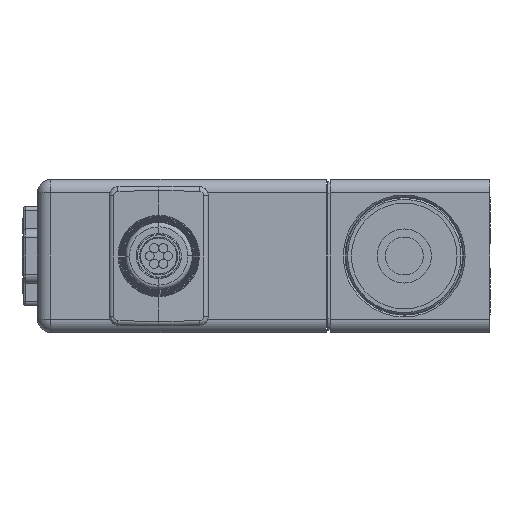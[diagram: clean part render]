
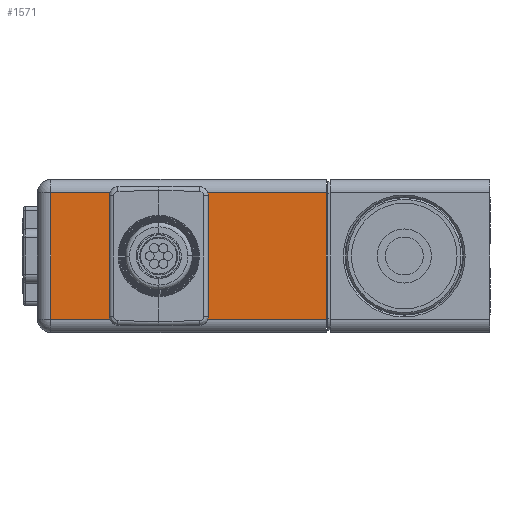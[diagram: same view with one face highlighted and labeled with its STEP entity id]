
A CAD part, left-side view. The second image highlights one B-rep face of the part: STEP entity #1571.
In plain terms, the highlighted planar face has unit normal (-1, 0, 0).
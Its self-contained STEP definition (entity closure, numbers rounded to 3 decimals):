
#1571=ADVANCED_FACE('',(#3872,#3873),#3874,.T.);
#3872=FACE_BOUND('',#7018,.T.);
#3873=FACE_OUTER_BOUND('',#7019,.T.);
#3874=PLANE('',#7020);
#7018=EDGE_LOOP('',(#13553,#13554,#13555,#13556,#13557,#13558,#13559,#13560,#13561,#13562,#13563,#13564,#13565,#13566));
#7019=EDGE_LOOP('',(#13567,#13568,#13569,#13570));
#7020=AXIS2_PLACEMENT_3D('',#13571,#13572,#13573);
#13553=ORIENTED_EDGE('',*,*,#22046,.F.);
#13554=ORIENTED_EDGE('',*,*,#22047,.F.);
#13555=ORIENTED_EDGE('',*,*,#20859,.T.);
#13556=ORIENTED_EDGE('',*,*,#22048,.F.);
#13557=ORIENTED_EDGE('',*,*,#21525,.T.);
#13558=ORIENTED_EDGE('',*,*,#22049,.F.);
#13559=ORIENTED_EDGE('',*,*,#21726,.F.);
#13560=ORIENTED_EDGE('',*,*,#22050,.T.);
#13561=ORIENTED_EDGE('',*,*,#21624,.F.);
#13562=ORIENTED_EDGE('',*,*,#22051,.F.);
#13563=ORIENTED_EDGE('',*,*,#21491,.T.);
#13564=ORIENTED_EDGE('',*,*,#22052,.F.);
#13565=ORIENTED_EDGE('',*,*,#22053,.T.);
#13566=ORIENTED_EDGE('',*,*,#21089,.F.);
#13567=ORIENTED_EDGE('',*,*,#21852,.F.);
#13568=ORIENTED_EDGE('',*,*,#21324,.T.);
#13569=ORIENTED_EDGE('',*,*,#22054,.T.);
#13570=ORIENTED_EDGE('',*,*,#22055,.F.);
#13571=CARTESIAN_POINT('',(-27.5,18.15,-8.5));
#13572=DIRECTION('',(-1.0,0.0,0.0));
#13573=DIRECTION('',(0.0,0.0,1.0));
#20859=EDGE_CURVE('',#25330,#25331,#25332,.T.);
#21089=EDGE_CURVE('',#25743,#25745,#25746,.T.);
#21324=EDGE_CURVE('',#25315,#26148,#26149,.T.);
#21491=EDGE_CURVE('',#26420,#26421,#26422,.T.);
#21525=EDGE_CURVE('',#26474,#26475,#26476,.T.);
#21624=EDGE_CURVE('',#26645,#26647,#26648,.T.);
#21726=EDGE_CURVE('',#26798,#26801,#26802,.T.);
#21852=EDGE_CURVE('',#25315,#26338,#26991,.T.);
#22046=EDGE_CURVE('',#27282,#25743,#27283,.T.);
#22047=EDGE_CURVE('',#25330,#27282,#27284,.T.);
#22048=EDGE_CURVE('',#26474,#25331,#27285,.T.);
#22049=EDGE_CURVE('',#26801,#26475,#27286,.T.);
#22050=EDGE_CURVE('',#26798,#26647,#27287,.T.);
#22051=EDGE_CURVE('',#26420,#26645,#27288,.T.);
#22052=EDGE_CURVE('',#27289,#26421,#27290,.T.);
#22053=EDGE_CURVE('',#27289,#25745,#27291,.T.);
#22054=EDGE_CURVE('',#26148,#27292,#27293,.T.);
#22055=EDGE_CURVE('',#26338,#27292,#27294,.T.);
#25315=VERTEX_POINT('',#32435);
#25330=VERTEX_POINT('',#32454);
#25331=VERTEX_POINT('',#32455);
#25332=CIRCLE('',#32456,0.5);
#25743=VERTEX_POINT('',#33014);
#25745=VERTEX_POINT('',#33017);
#25746=LINE('',#33018,#33019);
#26148=VERTEX_POINT('',#33600);
#26149=LINE('',#33601,#33602);
#26338=VERTEX_POINT('',#33920);
#26420=VERTEX_POINT('',#34107);
#26421=VERTEX_POINT('',#34108);
#26422=CIRCLE('',#34109,0.5);
#26474=VERTEX_POINT('',#34182);
#26475=VERTEX_POINT('',#34183);
#26476=CIRCLE('',#34184,0.5);
#26645=VERTEX_POINT('',#34423);
#26647=VERTEX_POINT('',#34426);
#26648=LINE('',#34427,#34428);
#26798=VERTEX_POINT('',#34674);
#26801=VERTEX_POINT('',#34678);
#26802=LINE('',#34679,#34680);
#26991=LINE('',#34950,#34951);
#27282=VERTEX_POINT('',#35460);
#27283=LINE('',#35461,#35462);
#27284=LINE('',#35463,#35464);
#27285=LINE('',#35465,#35466);
#27286=LINE('',#35467,#35468);
#27287=LINE('',#35469,#35470);
#27288=LINE('',#35471,#35472);
#27289=VERTEX_POINT('',#35473);
#27290=LINE('',#35474,#35475);
#27291=CIRCLE('',#35476,0.5);
#27292=VERTEX_POINT('',#35477);
#27293=LINE('',#35478,#35479);
#27294=LINE('',#35480,#35481);
#32435=CARTESIAN_POINT('',(-27.5,48.65,-7.0));
#32454=CARTESIAN_POINT('',(-27.5,33.15,-5.05));
#32455=CARTESIAN_POINT('',(-27.5,33.65,-5.55));
#32456=AXIS2_PLACEMENT_3D('',#43557,#43558,#43559);
#33014=CARTESIAN_POINT('',(-27.5,33.15,3.55));
#33017=CARTESIAN_POINT('',(-27.5,33.15,5.05));
#33018=CARTESIAN_POINT('',(-27.5,33.15,3.55));
#33019=VECTOR('',#43846,1.0);
#33600=CARTESIAN_POINT('',(-27.5,18.15,-7.0));
#33601=CARTESIAN_POINT('',(-27.5,48.65,-7.0));
#33602=VECTOR('',#44126,1.0);
#33920=CARTESIAN_POINT('',(-27.5,48.65,7.0));
#34107=CARTESIAN_POINT('',(-27.5,40.25,5.05));
#34108=CARTESIAN_POINT('',(-27.5,39.75,5.55));
#34109=AXIS2_PLACEMENT_3D('',#44328,#44329,#44330);
#34182=CARTESIAN_POINT('',(-27.5,39.75,-5.55));
#34183=CARTESIAN_POINT('',(-27.5,40.25,-5.05));
#34184=AXIS2_PLACEMENT_3D('',#44376,#44377,#44378);
#34423=CARTESIAN_POINT('',(-27.5,40.25,3.55));
#34426=CARTESIAN_POINT('',(-27.5,39.95,3.55));
#34427=CARTESIAN_POINT('',(-27.5,40.25,3.55));
#34428=VECTOR('',#44501,1.0);
#34674=CARTESIAN_POINT('',(-27.5,39.95,-3.55));
#34678=CARTESIAN_POINT('',(-27.5,40.25,-3.55));
#34679=CARTESIAN_POINT('',(-27.5,39.95,-3.55));
#34680=VECTOR('',#44625,1.0);
#34950=CARTESIAN_POINT('',(-27.5,48.65,-7.0));
#34951=VECTOR('',#44752,1.0);
#35460=CARTESIAN_POINT('',(-27.5,33.15,-3.55));
#35461=CARTESIAN_POINT('',(-27.5,33.15,-3.55));
#35462=VECTOR('',#44985,1.0);
#35463=CARTESIAN_POINT('',(-27.5,33.15,-5.05));
#35464=VECTOR('',#44986,1.0);
#35465=CARTESIAN_POINT('',(-27.5,39.75,-5.55));
#35466=VECTOR('',#44987,1.0);
#35467=CARTESIAN_POINT('',(-27.5,40.25,-3.55));
#35468=VECTOR('',#44988,1.0);
#35469=CARTESIAN_POINT('',(-27.5,39.95,-3.55));
#35470=VECTOR('',#44989,1.0);
#35471=CARTESIAN_POINT('',(-27.5,40.25,5.05));
#35472=VECTOR('',#44990,1.0);
#35473=CARTESIAN_POINT('',(-27.5,33.65,5.55));
#35474=CARTESIAN_POINT('',(-27.5,33.65,5.55));
#35475=VECTOR('',#44991,1.0);
#35476=AXIS2_PLACEMENT_3D('',#44992,#44993,#44994);
#35477=CARTESIAN_POINT('',(-27.5,18.15,7.0));
#35478=CARTESIAN_POINT('',(-27.5,18.15,-7.0));
#35479=VECTOR('',#44995,1.0);
#35480=CARTESIAN_POINT('',(-27.5,48.65,7.0));
#35481=VECTOR('',#44996,1.0);
#43557=CARTESIAN_POINT('',(-27.5,33.65,-5.05));
#43558=DIRECTION('',(1.0,0.0,0.0));
#43559=DIRECTION('',(0.0,-1.0,0.0));
#43846=DIRECTION('',(0.0,0.0,1.0));
#44126=DIRECTION('',(0.0,-1.0,0.0));
#44328=CARTESIAN_POINT('',(-27.5,39.75,5.05));
#44329=DIRECTION('',(1.0,0.0,0.0));
#44330=DIRECTION('',(0.0,1.0,0.0));
#44376=CARTESIAN_POINT('',(-27.5,39.75,-5.05));
#44377=DIRECTION('',(1.0,0.0,0.0));
#44378=DIRECTION('',(0.0,0.0,-1.0));
#44501=DIRECTION('',(0.0,-1.0,0.0));
#44625=DIRECTION('',(0.0,1.0,0.0));
#44752=DIRECTION('',(0.0,0.0,1.0));
#44985=DIRECTION('',(0.0,0.0,1.0));
#44986=DIRECTION('',(0.0,0.0,1.0));
#44987=DIRECTION('',(0.0,-1.0,0.0));
#44988=DIRECTION('',(0.0,0.0,-1.0));
#44989=DIRECTION('',(0.0,0.0,1.0));
#44990=DIRECTION('',(0.0,0.0,-1.0));
#44991=DIRECTION('',(0.0,1.0,0.0));
#44992=CARTESIAN_POINT('',(-27.5,33.65,5.05));
#44993=DIRECTION('',(1.0,0.0,-0.0));
#44994=DIRECTION('',(0.0,0.0,1.0));
#44995=DIRECTION('',(0.0,0.0,1.0));
#44996=DIRECTION('',(0.0,-1.0,0.0));
